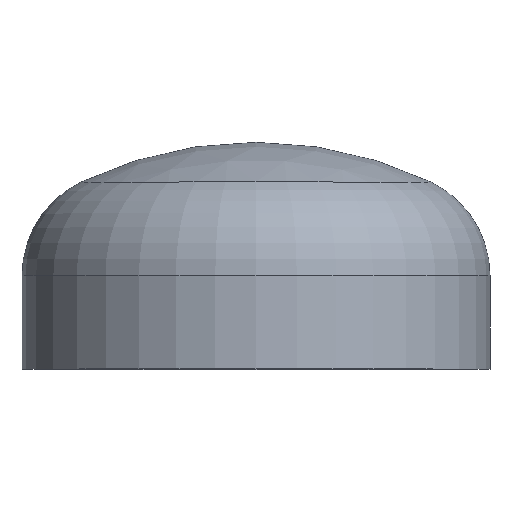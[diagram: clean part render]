
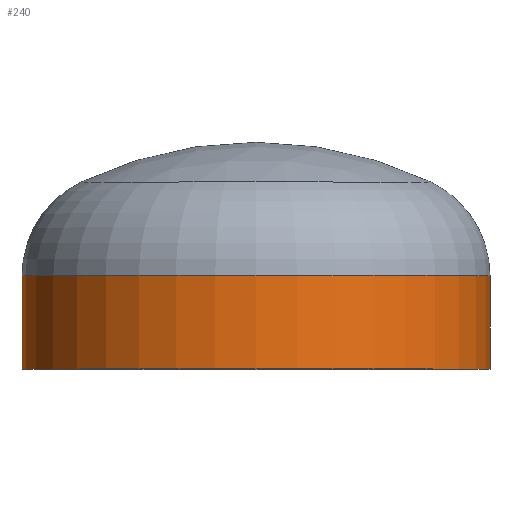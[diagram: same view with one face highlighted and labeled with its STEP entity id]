
A CAD part, top view. The second image highlights one B-rep face of the part: STEP entity #240.
In plain terms, the highlighted cylindrical face has radius 350 mm (diameter 700 mm), a partial arc.
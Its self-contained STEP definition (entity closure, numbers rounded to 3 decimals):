
#8 = EDGE_LOOP ( 'NONE', ( #49, #35, #119, #274 ) ) ;
#15 = VERTEX_POINT ( 'NONE', #295 ) ;
#28 = AXIS2_PLACEMENT_3D ( 'NONE', #406, #157, #158 ) ;
#30 = VERTEX_POINT ( 'NONE', #278 ) ;
#35 = ORIENTED_EDGE ( 'NONE', *, *, #360, .T. ) ;
#43 = AXIS2_PLACEMENT_3D ( 'NONE', #141, #144, #258 ) ;
#46 = DIRECTION ( 'NONE',  ( 1., 0., 0. ) ) ;
#49 = ORIENTED_EDGE ( 'NONE', *, *, #411, .T. ) ;
#52 = VERTEX_POINT ( 'NONE', #260 ) ;
#54 = AXIS2_PLACEMENT_3D ( 'NONE', #168, #210, #46 ) ;
#77 = VERTEX_POINT ( 'NONE', #245 ) ;
#119 = ORIENTED_EDGE ( 'NONE', *, *, #351, .F. ) ;
#133 = CARTESIAN_POINT ( 'NONE',  ( -350., 0., 0. ) ) ;
#141 = CARTESIAN_POINT ( 'NONE',  ( 0., 140., 0. ) ) ;
#144 = DIRECTION ( 'NONE',  ( 0., -1., 0. ) ) ;
#157 = DIRECTION ( 'NONE',  ( 0., -1., 0. ) ) ;
#158 = DIRECTION ( 'NONE',  ( 1., 0., 0. ) ) ;
#168 = CARTESIAN_POINT ( 'NONE',  ( 0., 0., 0. ) ) ;
#173 = CIRCLE ( 'NONE', #43, 350. ) ;
#191 = VECTOR ( 'NONE', #196, 1000. ) ;
#196 = DIRECTION ( 'NONE',  ( 0., -1., 0. ) ) ;
#210 = DIRECTION ( 'NONE',  ( 0., -1., 0. ) ) ;
#233 = FACE_OUTER_BOUND ( 'NONE', #8, .T. ) ;
#240 = ADVANCED_FACE ( 'NONE', ( #233 ), #399, .T. ) ;
#245 = CARTESIAN_POINT ( 'NONE',  ( -350., 140., 0. ) ) ;
#258 = DIRECTION ( 'NONE',  ( 1., 0., 0. ) ) ;
#260 = CARTESIAN_POINT ( 'NONE',  ( -350., 0., 0. ) ) ;
#267 = LINE ( 'NONE', #133, #191 ) ;
#273 = CIRCLE ( 'NONE', #28, 350. ) ;
#274 = ORIENTED_EDGE ( 'NONE', *, *, #337, .F. ) ;
#278 = CARTESIAN_POINT ( 'NONE',  ( 350., 140., 0. ) ) ;
#295 = CARTESIAN_POINT ( 'NONE',  ( 350., 0., 0. ) ) ;
#334 = VECTOR ( 'NONE', #343, 1000. ) ;
#337 = EDGE_CURVE ( 'NONE', #30, #15, #391, .T. ) ;
#343 = DIRECTION ( 'NONE',  ( 0., -1., 0. ) ) ;
#351 = EDGE_CURVE ( 'NONE', #15, #52, #273, .T. ) ;
#360 = EDGE_CURVE ( 'NONE', #77, #52, #267, .T. ) ;
#367 = CARTESIAN_POINT ( 'NONE',  ( 350., 0., 0. ) ) ;
#391 = LINE ( 'NONE', #367, #334 ) ;
#399 = CYLINDRICAL_SURFACE ( 'NONE', #54, 350. ) ;
#406 = CARTESIAN_POINT ( 'NONE',  ( 0., 0., 0. ) ) ;
#411 = EDGE_CURVE ( 'NONE', #30, #77, #173, .T. ) ;
